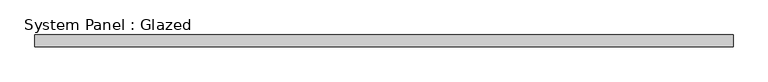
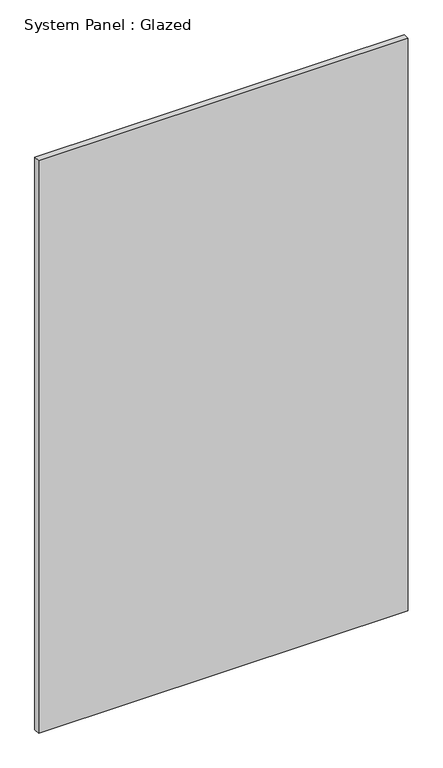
"""IFC4 building model written with IfcOpenShell, lengths in millimetres: plate geometry, System Panel : Glazed."""

from ifc_helpers import new_model, si_unit, origin, origin_with_axes, place, context, project, spatial, polyline, outline, extrude, source, transform, mapped, element, save


def system_panel_glazed_3595c73b(model_context):
    return source(origin(), model_context, "Body", "SweptSolid", [
        extrude(outline(polyline([(753.5333333, -12.7), (-753.5333333, -12.7), (-753.5333333, 12.7), (753.5333333, 12.7), (753.5333333, -12.7)])), origin_with_axes(), (0.0, 0.0, 1.0), 2466.5116285),
    ])


if __name__ == "__main__":
    model = new_model("IFC4")
    model_context = context("Model", 3, world=origin())
    ifc_project = project(units=[si_unit("LENGTHUNIT", "METRE", prefix="MILLI")], contexts=[model_context])
    site = spatial("IfcSite", under=ifc_project)
    building = spatial("IfcBuilding", under=site)
    placement = place(None, origin())
    system_panel_glazed_shape = system_panel_glazed_3595c73b(model_context)
    element("IfcPlate", 1, ObjectType="System Panel : Glazed", at=placement, inside=building, context=model_context, shape_type="MappedRepresentation", body=[
        mapped(system_panel_glazed_shape, transform((0.0, 0.0, 0.0), x_axis=(1.0, 0.0, 0.0), y_axis=(0.0, 1.0, 0.0), z_axis=(0.0, 0.0, 1.0))),
    ])
    save(model, "model.ifc")
